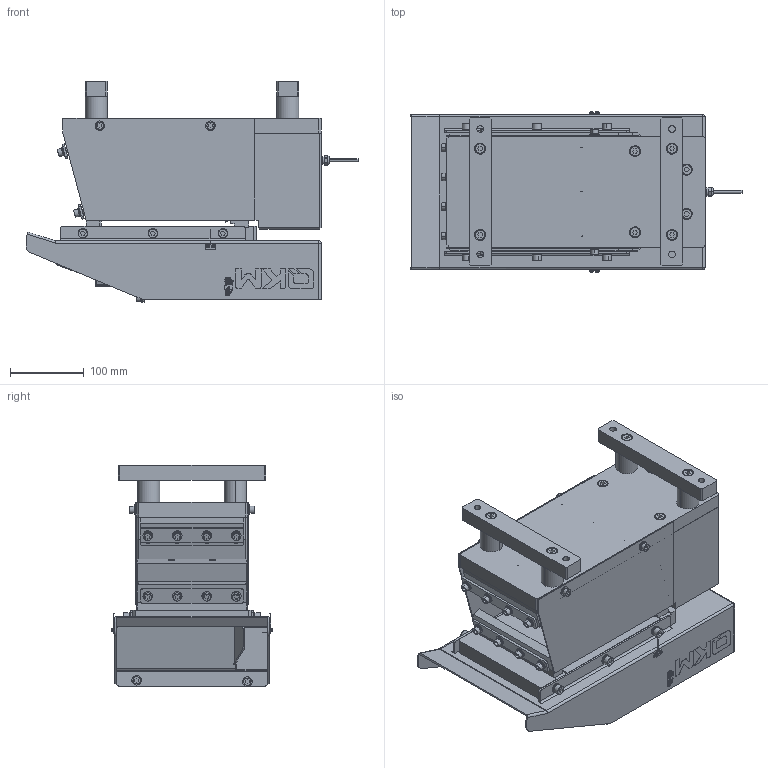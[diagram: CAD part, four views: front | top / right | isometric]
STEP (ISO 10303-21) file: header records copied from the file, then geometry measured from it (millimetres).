
FILE_DESCRIPTION (( 'STEP AP203' ), '1' );
FILE_NAME ('储料仓,QFA-3L,单储料仓,可储料仓容积3L.STEP', '2022-08-06T09:03:09', ( '' ), ( '' ), 'SwSTEP 2.0', 'SolidWorks 2017', '' );
FILE_SCHEMA (( 'CONFIG_CONTROL_DESIGN' ));
Length unit declared in the file: millimetre
Products named in the file (1): 储料仓,QFA-3L,单储料仓,可储料仓容积3L
Bounding box: 450.08 x 218.6 x 299.62 mm (x, y, z)
Volume: 5383645.1 mm3; surface area: 1128761.7 mm2
Topology: 106 solids, 110 shells, 3016 faces, 7174 edges, 4586 vertices
Faces by surface type: plane 1145, cylinder 871, bspline 559, cone 429, torus 8, sphere 4
Entity records: 90395 total; most frequent: CARTESIAN_POINT 22843, ORIENTED_EDGE 14224, DIRECTION 12910, EDGE_CURVE 7112, AXIS2_PLACEMENT_3D 4587, VERTEX_POINT 4586, VECTOR 3736, LINE 3736
